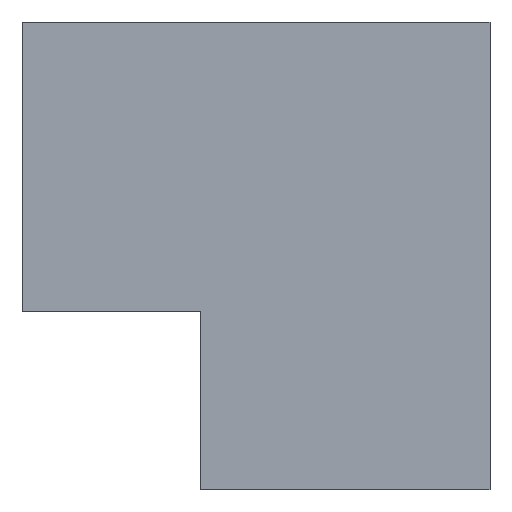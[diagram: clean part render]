
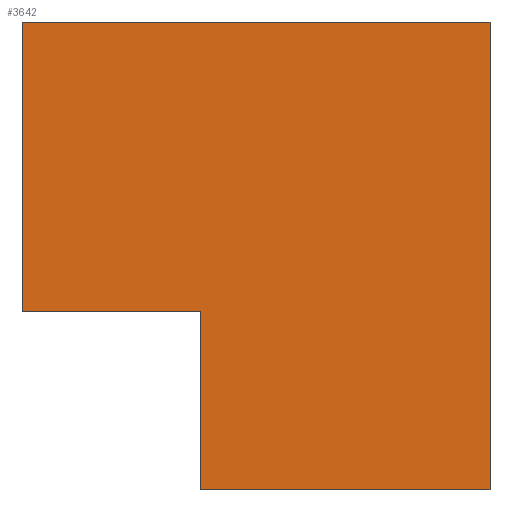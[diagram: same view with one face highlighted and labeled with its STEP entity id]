
A CAD part, front view. The second image highlights one B-rep face of the part: STEP entity #3642.
In plain terms, the highlighted planar face has unit normal (0, -1, 0) as drawn and (0, 1, 0) by its records, which use the part's own axes.
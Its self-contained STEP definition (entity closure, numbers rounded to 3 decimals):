
#88=FACE_OUTER_BOUND('',#280,.T.);
#280=EDGE_LOOP('',(#2390,#2391,#2392,#2393,#2394,#2395));
#484=LINE('',#5031,#990);
#485=LINE('',#5033,#991);
#486=LINE('',#5035,#992);
#487=LINE('',#5037,#993);
#488=LINE('',#5039,#994);
#489=LINE('',#5040,#995);
#990=VECTOR('',#4072,304.8);
#991=VECTOR('',#4073,304.8);
#992=VECTOR('',#4074,304.8);
#993=VECTOR('',#4075,304.8);
#994=VECTOR('',#4076,304.8);
#995=VECTOR('',#4077,304.8);
#1496=VERTEX_POINT('',#5029);
#1497=VERTEX_POINT('',#5030);
#1498=VERTEX_POINT('',#5032);
#1499=VERTEX_POINT('',#5034);
#1500=VERTEX_POINT('',#5036);
#1501=VERTEX_POINT('',#5038);
#1852=EDGE_CURVE('',#1496,#1497,#484,.T.);
#1853=EDGE_CURVE('',#1498,#1496,#485,.T.);
#1854=EDGE_CURVE('',#1499,#1498,#486,.T.);
#1855=EDGE_CURVE('',#1500,#1499,#487,.T.);
#1856=EDGE_CURVE('',#1501,#1500,#488,.T.);
#1857=EDGE_CURVE('',#1497,#1501,#489,.T.);
#2390=ORIENTED_EDGE('',*,*,#1852,.F.);
#2391=ORIENTED_EDGE('',*,*,#1853,.F.);
#2392=ORIENTED_EDGE('',*,*,#1854,.F.);
#2393=ORIENTED_EDGE('',*,*,#1855,.F.);
#2394=ORIENTED_EDGE('',*,*,#1856,.F.);
#2395=ORIENTED_EDGE('',*,*,#1857,.F.);
#3466=PLANE('',#3841);
#3642=ADVANCED_FACE('',(#88),#3466,.T.);
#3841=AXIS2_PLACEMENT_3D('',#5028,#4070,#4071);
#4070=DIRECTION('center_axis',(0.,1.,0.));
#4071=DIRECTION('ref_axis',(0.,0.,-1.));
#4072=DIRECTION('',(1.,0.,0.));
#4073=DIRECTION('',(0.,0.,-1.));
#4074=DIRECTION('',(-1.,0.,0.));
#4075=DIRECTION('',(0.,0.,1.));
#4076=DIRECTION('',(1.,0.,0.));
#4077=DIRECTION('',(0.,0.,1.));
#5028=CARTESIAN_POINT('Origin',(76.,19.7,199.));
#5029=CARTESIAN_POINT('',(0.,19.7,-47.));
#5030=CARTESIAN_POINT('',(76.,19.7,-47.));
#5031=CARTESIAN_POINT('',(0.,19.7,-47.));
#5032=CARTESIAN_POINT('',(0.,19.7,76.));
#5033=CARTESIAN_POINT('',(0.,19.7,76.));
#5034=CARTESIAN_POINT('',(123.,19.7,76.));
#5035=CARTESIAN_POINT('',(123.,19.7,76.));
#5036=CARTESIAN_POINT('',(123.,19.7,0.));
#5037=CARTESIAN_POINT('',(123.,19.7,0.));
#5038=CARTESIAN_POINT('',(76.,19.7,0.));
#5039=CARTESIAN_POINT('',(76.,19.7,0.));
#5040=CARTESIAN_POINT('',(76.,19.7,-47.));
